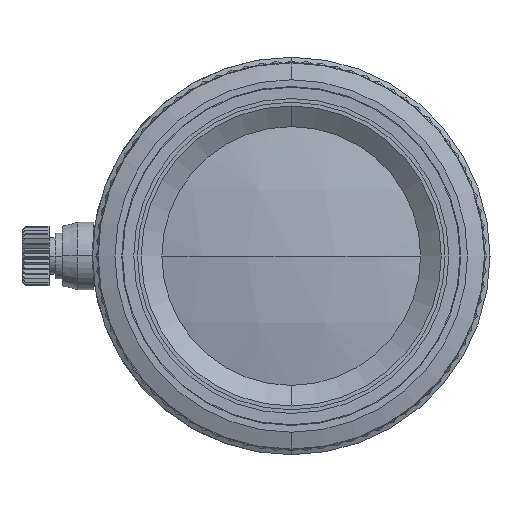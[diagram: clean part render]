
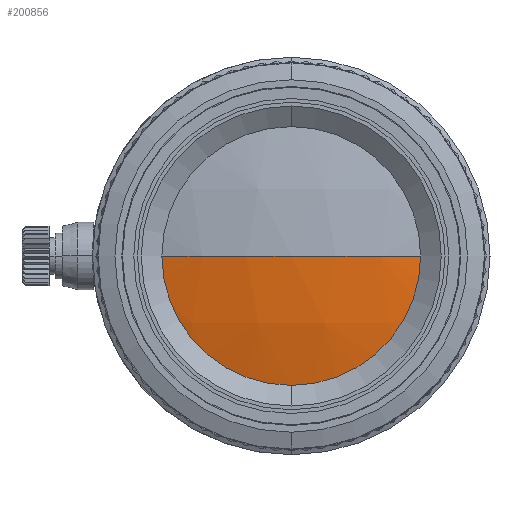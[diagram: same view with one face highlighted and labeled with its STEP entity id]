
A CAD part, left-side view. The second image highlights one B-rep face of the part: STEP entity #200856.
In plain terms, the highlighted spherical face has radius 71.13 mm.
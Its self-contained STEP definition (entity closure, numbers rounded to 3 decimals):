
#8723 = CARTESIAN_POINT ( 'NONE',  ( 203.019, 341.638, 0. ) ) ;
#20386 = CARTESIAN_POINT ( 'NONE',  ( 203.019, 359.338, 0. ) ) ;
#29390 = ORIENTED_EDGE ( 'NONE', *, *, #165201, .T. ) ;
#37591 = DIRECTION ( 'NONE',  ( 0., 0., 1. ) ) ;
#38439 = FACE_OUTER_BOUND ( 'NONE', #49656, .T. ) ;
#41757 = DIRECTION ( 'NONE',  ( 0., 1., 0. ) ) ;
#49656 = EDGE_LOOP ( 'NONE', ( #157057, #166557, #152487, #29390 ) ) ;
#62720 = EDGE_CURVE ( 'NONE', #100686, #213237, #72707, .T. ) ;
#65432 = AXIS2_PLACEMENT_3D ( 'NONE', #69430, #189775, #86687 ) ;
#68157 = DIRECTION ( 'NONE',  ( 0., 0., -1. ) ) ;
#69430 = CARTESIAN_POINT ( 'NONE',  ( 203.019, 359.338, 0. ) ) ;
#72707 = CIRCLE ( 'NONE', #176033, 71.13 ) ;
#73431 = SPHERICAL_SURFACE ( 'NONE', #178806, 71.13 ) ;
#81044 = EDGE_CURVE ( 'NONE', #213162, #117665, #132484, .T. ) ;
#85752 = CARTESIAN_POINT ( 'NONE',  ( 271.912, 359.338, 0. ) ) ;
#86687 = DIRECTION ( 'NONE',  ( 0., 0., 1. ) ) ;
#100686 = VERTEX_POINT ( 'NONE', #184341 ) ;
#103089 = DIRECTION ( 'NONE',  ( 1., 0., 0. ) ) ;
#110239 = DIRECTION ( 'NONE',  ( 0., 0., -1. ) ) ;
#114425 = CARTESIAN_POINT ( 'NONE',  ( 203.019, 359.338, -17.7 ) ) ;
#116611 = CARTESIAN_POINT ( 'NONE',  ( 200.782, 359.338, 0. ) ) ;
#117665 = VERTEX_POINT ( 'NONE', #8723 ) ;
#119199 = CIRCLE ( 'NONE', #65432, 17.7 ) ;
#132484 = CIRCLE ( 'NONE', #181317, 17.7 ) ;
#140645 = DIRECTION ( 'NONE',  ( -1., 0., 0. ) ) ;
#144798 = CARTESIAN_POINT ( 'NONE',  ( 271.912, 359.338, 0. ) ) ;
#152487 = ORIENTED_EDGE ( 'NONE', *, *, #62720, .F. ) ;
#157057 = ORIENTED_EDGE ( 'NONE', *, *, #81044, .T. ) ;
#165201 = EDGE_CURVE ( 'NONE', #100686, #213162, #119199, .T. ) ;
#166557 = ORIENTED_EDGE ( 'NONE', *, *, #183539, .T. ) ;
#171186 = CARTESIAN_POINT ( 'NONE',  ( 271.912, 359.338, 0. ) ) ;
#175042 = CIRCLE ( 'NONE', #198246, 71.13 ) ;
#176033 = AXIS2_PLACEMENT_3D ( 'NONE', #85752, #206118, #103089 ) ;
#178806 = AXIS2_PLACEMENT_3D ( 'NONE', #144798, #110239, #41757 ) ;
#181317 = AXIS2_PLACEMENT_3D ( 'NONE', #20386, #140645, #37591 ) ;
#183539 = EDGE_CURVE ( 'NONE', #117665, #213237, #175042, .T. ) ;
#184341 = CARTESIAN_POINT ( 'NONE',  ( 203.019, 377.038, 0. ) ) ;
#188495 = DIRECTION ( 'NONE',  ( 0., 1., 0. ) ) ;
#189775 = DIRECTION ( 'NONE',  ( -1., 0., 0. ) ) ;
#198246 = AXIS2_PLACEMENT_3D ( 'NONE', #171186, #68157, #188495 ) ;
#200856 = ADVANCED_FACE ( 'NONE', ( #38439 ), #73431, .T. ) ;
#206118 = DIRECTION ( 'NONE',  ( 0., 0., 1. ) ) ;
#213162 = VERTEX_POINT ( 'NONE', #114425 ) ;
#213237 = VERTEX_POINT ( 'NONE', #116611 ) ;
